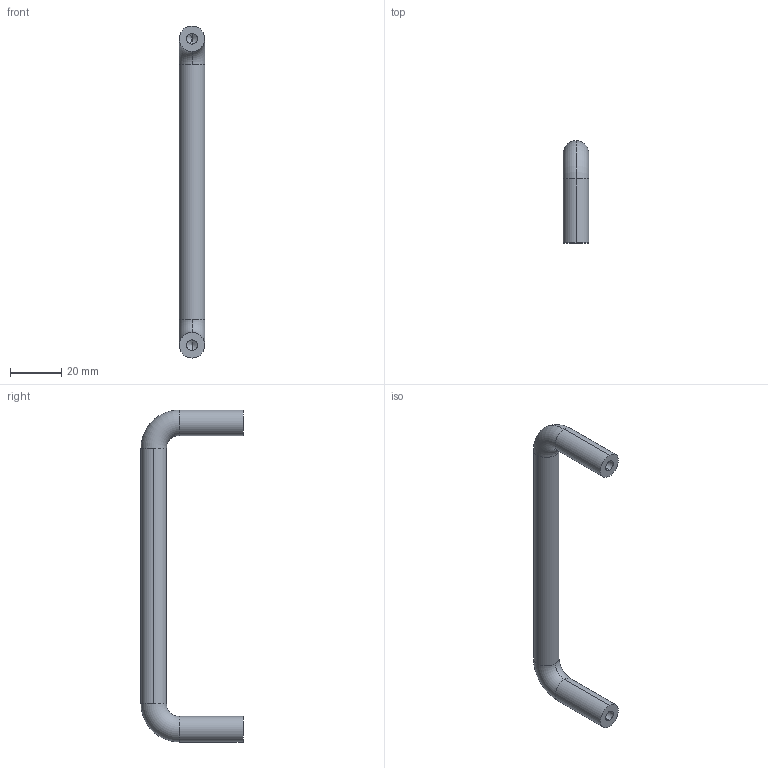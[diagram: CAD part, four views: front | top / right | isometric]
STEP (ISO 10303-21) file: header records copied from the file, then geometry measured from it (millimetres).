
FILE_DESCRIPTION (( 'STEP AP203' ), '1' );
FILE_NAME ('E03-503120.STEP', '2023-04-20T06:42:24', ( '' ), ( '' ), 'SwSTEP 2.0', 'SolidWorks 2021', '' );
FILE_SCHEMA (( 'CONFIG_CONTROL_DESIGN' ));
Length unit declared in the file: millimetre
Products named in the file (1): E03-503120
Bounding box: 10 x 40 x 130 mm (x, y, z)
Volume: 13848.8 mm3; surface area: 6230.5 mm2
Topology: 1 solids, 1 shells, 20 faces, 46 edges, 26 vertices
Faces by surface type: cylinder 10, torus 4, cone 4, plane 2
Entity records: 623 total; most frequent: DIRECTION 112, CARTESIAN_POINT 89, ORIENTED_EDGE 84, AXIS2_PLACEMENT_3D 49, EDGE_CURVE 42, CIRCLE 28, VERTEX_POINT 26, EDGE_LOOP 22
